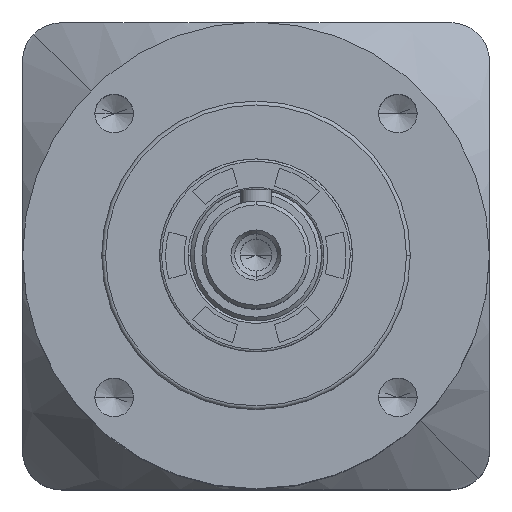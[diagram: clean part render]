
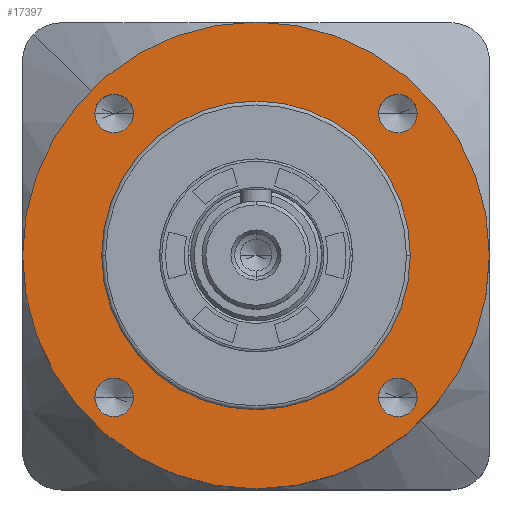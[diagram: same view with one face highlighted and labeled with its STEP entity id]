
A CAD part, top view. The second image highlights one B-rep face of the part: STEP entity #17397.
In plain terms, the highlighted planar face has unit normal (0, 0, 1).
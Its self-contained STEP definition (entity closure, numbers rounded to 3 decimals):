
#3 = DIRECTION ( 'NONE',  ( 1., 0., 0. ) ) ;
#395 = AXIS2_PLACEMENT_3D ( 'NONE', #2819, #5411, #10398 ) ;
#709 = EDGE_LOOP ( 'NONE', ( #9619, #21273 ) ) ;
#735 = DIRECTION ( 'NONE',  ( 1., 0., 0. ) ) ;
#2001 = EDGE_CURVE ( 'NONE', #31542, #20748, #12358, .T. ) ;
#2156 = AXIS2_PLACEMENT_3D ( 'NONE', #14854, #17230, #3 ) ;
#2819 = CARTESIAN_POINT ( 'NONE',  ( 0., 0., 17.9 ) ) ;
#3104 = EDGE_LOOP ( 'NONE', ( #3835, #17673 ) ) ;
#3468 = VERTEX_POINT ( 'NONE', #23179 ) ;
#3591 = DIRECTION ( 'NONE',  ( 1., 0., 0. ) ) ;
#3732 = EDGE_CURVE ( 'NONE', #3468, #10171, #12574, .T. ) ;
#3835 = ORIENTED_EDGE ( 'NONE', *, *, #20946, .F. ) ;
#4073 = CARTESIAN_POINT ( 'NONE',  ( -20.885, 18.385, 17.9 ) ) ;
#4578 = CARTESIAN_POINT ( 'NONE',  ( 0., 0., 17.9 ) ) ;
#4780 = ORIENTED_EDGE ( 'NONE', *, *, #3732, .F. ) ;
#5200 = CARTESIAN_POINT ( 'NONE',  ( 30.25, 0., 17.9 ) ) ;
#5411 = DIRECTION ( 'NONE',  ( 0., 0., 1. ) ) ;
#5428 = CIRCLE ( 'NONE', #15590, 2.5 ) ;
#6446 = AXIS2_PLACEMENT_3D ( 'NONE', #22733, #25248, #15385 ) ;
#7029 = EDGE_LOOP ( 'NONE', ( #22985, #23994 ) ) ;
#7150 = CIRCLE ( 'NONE', #11786, 2.5 ) ;
#7212 = DIRECTION ( 'NONE',  ( 0., 0., 1. ) ) ;
#7366 = CIRCLE ( 'NONE', #13137, 20. ) ;
#7386 = CARTESIAN_POINT ( 'NONE',  ( 18.385, -18.385, 17.9 ) ) ;
#7790 = VERTEX_POINT ( 'NONE', #9582 ) ;
#7805 = VERTEX_POINT ( 'NONE', #21809 ) ;
#7867 = EDGE_CURVE ( 'NONE', #13983, #19068, #28806, .T. ) ;
#8151 = AXIS2_PLACEMENT_3D ( 'NONE', #4578, #7212, #21815 ) ;
#8171 = CIRCLE ( 'NONE', #8151, 30.25 ) ;
#8585 = DIRECTION ( 'NONE',  ( 0., 0., 1. ) ) ;
#8615 = CIRCLE ( 'NONE', #6446, 2.5 ) ;
#9547 = CARTESIAN_POINT ( 'NONE',  ( 18.385, 18.385, 17.9 ) ) ;
#9582 = CARTESIAN_POINT ( 'NONE',  ( -30.25, 0., 17.9 ) ) ;
#9619 = ORIENTED_EDGE ( 'NONE', *, *, #17334, .F. ) ;
#9655 = DIRECTION ( 'NONE',  ( 0., 0., 1. ) ) ;
#9759 = DIRECTION ( 'NONE',  ( 1., 0., 0. ) ) ;
#10171 = VERTEX_POINT ( 'NONE', #11906 ) ;
#10241 = AXIS2_PLACEMENT_3D ( 'NONE', #30124, #15262, #10379 ) ;
#10379 = DIRECTION ( 'NONE',  ( 1., 0., 0. ) ) ;
#10398 = DIRECTION ( 'NONE',  ( 1., 0., 0. ) ) ;
#10999 = CIRCLE ( 'NONE', #19649, 2.5 ) ;
#11485 = CIRCLE ( 'NONE', #25702, 2.5 ) ;
#11786 = AXIS2_PLACEMENT_3D ( 'NONE', #13088, #30443, #735 ) ;
#11790 = AXIS2_PLACEMENT_3D ( 'NONE', #14644, #9655, #31892 ) ;
#11906 = CARTESIAN_POINT ( 'NONE',  ( 15.885, 18.385, 17.9 ) ) ;
#12033 = EDGE_CURVE ( 'NONE', #10171, #3468, #7150, .T. ) ;
#12223 = VERTEX_POINT ( 'NONE', #4073 ) ;
#12358 = CIRCLE ( 'NONE', #27420, 20. ) ;
#12574 = CIRCLE ( 'NONE', #17237, 2.5 ) ;
#12696 = CARTESIAN_POINT ( 'NONE',  ( -20., 0., 17.9 ) ) ;
#12988 = EDGE_CURVE ( 'NONE', #12223, #23525, #19150, .T. ) ;
#13088 = CARTESIAN_POINT ( 'NONE',  ( 18.385, 18.385, 17.9 ) ) ;
#13137 = AXIS2_PLACEMENT_3D ( 'NONE', #18440, #23633, #21357 ) ;
#13983 = VERTEX_POINT ( 'NONE', #19207 ) ;
#14281 = DIRECTION ( 'NONE',  ( 1., 0., 0. ) ) ;
#14510 = EDGE_CURVE ( 'NONE', #7805, #23494, #10999, .T. ) ;
#14644 = CARTESIAN_POINT ( 'NONE',  ( -18.385, 18.385, 17.9 ) ) ;
#14854 = CARTESIAN_POINT ( 'NONE',  ( 18.385, -18.385, 17.9 ) ) ;
#15262 = DIRECTION ( 'NONE',  ( 0., 0., 1. ) ) ;
#15385 = DIRECTION ( 'NONE',  ( 1., 0., 0. ) ) ;
#15590 = AXIS2_PLACEMENT_3D ( 'NONE', #19995, #22487, #22173 ) ;
#16765 = ORIENTED_EDGE ( 'NONE', *, *, #20458, .F. ) ;
#17110 = FACE_OUTER_BOUND ( 'NONE', #7029, .T. ) ;
#17228 = EDGE_LOOP ( 'NONE', ( #4780, #24848 ) ) ;
#17230 = DIRECTION ( 'NONE',  ( 0., 0., 1. ) ) ;
#17237 = AXIS2_PLACEMENT_3D ( 'NONE', #9547, #21886, #9759 ) ;
#17334 = EDGE_CURVE ( 'NONE', #23525, #12223, #8615, .T. ) ;
#17397 = ADVANCED_FACE ( 'NONE', ( #27998, #19796, #17894, #28783, #31477, #17110 ), #17655, .T. ) ;
#17655 = PLANE ( 'NONE',  #395 ) ;
#17673 = ORIENTED_EDGE ( 'NONE', *, *, #14510, .F. ) ;
#17894 = FACE_BOUND ( 'NONE', #709, .T. ) ;
#18440 = CARTESIAN_POINT ( 'NONE',  ( 0., 0., 17.9 ) ) ;
#19068 = VERTEX_POINT ( 'NONE', #25289 ) ;
#19150 = CIRCLE ( 'NONE', #11790, 2.5 ) ;
#19207 = CARTESIAN_POINT ( 'NONE',  ( 20.885, -18.385, 17.9 ) ) ;
#19649 = AXIS2_PLACEMENT_3D ( 'NONE', #20805, #8585, #3591 ) ;
#19796 = FACE_BOUND ( 'NONE', #17228, .T. ) ;
#19831 = EDGE_CURVE ( 'NONE', #7790, #31031, #8171, .T. ) ;
#19995 = CARTESIAN_POINT ( 'NONE',  ( -18.385, -18.385, 17.9 ) ) ;
#20027 = DIRECTION ( 'NONE',  ( 0., 0., 1. ) ) ;
#20131 = DIRECTION ( 'NONE',  ( 1., 0., 0. ) ) ;
#20458 = EDGE_CURVE ( 'NONE', #20748, #31542, #7366, .T. ) ;
#20748 = VERTEX_POINT ( 'NONE', #12696 ) ;
#20805 = CARTESIAN_POINT ( 'NONE',  ( -18.385, -18.385, 17.9 ) ) ;
#20861 = CIRCLE ( 'NONE', #10241, 30.25 ) ;
#20946 = EDGE_CURVE ( 'NONE', #23494, #7805, #5428, .T. ) ;
#21114 = CARTESIAN_POINT ( 'NONE',  ( 20., 0., 17.9 ) ) ;
#21273 = ORIENTED_EDGE ( 'NONE', *, *, #12988, .F. ) ;
#21357 = DIRECTION ( 'NONE',  ( 1., 0., 0. ) ) ;
#21809 = CARTESIAN_POINT ( 'NONE',  ( -20.885, -18.385, 17.9 ) ) ;
#21815 = DIRECTION ( 'NONE',  ( 1., 0., 0. ) ) ;
#21886 = DIRECTION ( 'NONE',  ( 0., 0., 1. ) ) ;
#22173 = DIRECTION ( 'NONE',  ( 1., 0., 0. ) ) ;
#22182 = EDGE_CURVE ( 'NONE', #31031, #7790, #20861, .T. ) ;
#22487 = DIRECTION ( 'NONE',  ( 0., 0., 1. ) ) ;
#22733 = CARTESIAN_POINT ( 'NONE',  ( -18.385, 18.385, 17.9 ) ) ;
#22985 = ORIENTED_EDGE ( 'NONE', *, *, #22182, .T. ) ;
#23179 = CARTESIAN_POINT ( 'NONE',  ( 20.885, 18.385, 17.9 ) ) ;
#23494 = VERTEX_POINT ( 'NONE', #23673 ) ;
#23525 = VERTEX_POINT ( 'NONE', #23779 ) ;
#23633 = DIRECTION ( 'NONE',  ( 0., 0., 1. ) ) ;
#23673 = CARTESIAN_POINT ( 'NONE',  ( -15.885, -18.385, 17.9 ) ) ;
#23779 = CARTESIAN_POINT ( 'NONE',  ( -15.885, 18.385, 17.9 ) ) ;
#23810 = DIRECTION ( 'NONE',  ( 0., 0., 1. ) ) ;
#23994 = ORIENTED_EDGE ( 'NONE', *, *, #19831, .T. ) ;
#24002 = CARTESIAN_POINT ( 'NONE',  ( 0., 0., 17.9 ) ) ;
#24848 = ORIENTED_EDGE ( 'NONE', *, *, #12033, .F. ) ;
#24930 = EDGE_LOOP ( 'NONE', ( #16765, #30105 ) ) ;
#25248 = DIRECTION ( 'NONE',  ( 0., 0., 1. ) ) ;
#25289 = CARTESIAN_POINT ( 'NONE',  ( 15.885, -18.385, 17.9 ) ) ;
#25562 = ORIENTED_EDGE ( 'NONE', *, *, #26093, .F. ) ;
#25702 = AXIS2_PLACEMENT_3D ( 'NONE', #7386, #20027, #20131 ) ;
#26093 = EDGE_CURVE ( 'NONE', #19068, #13983, #11485, .T. ) ;
#26703 = EDGE_LOOP ( 'NONE', ( #28771, #25562 ) ) ;
#27420 = AXIS2_PLACEMENT_3D ( 'NONE', #24002, #23810, #14281 ) ;
#27998 = FACE_BOUND ( 'NONE', #26703, .T. ) ;
#28771 = ORIENTED_EDGE ( 'NONE', *, *, #7867, .F. ) ;
#28783 = FACE_BOUND ( 'NONE', #3104, .T. ) ;
#28806 = CIRCLE ( 'NONE', #2156, 2.5 ) ;
#30105 = ORIENTED_EDGE ( 'NONE', *, *, #2001, .F. ) ;
#30124 = CARTESIAN_POINT ( 'NONE',  ( 0., 0., 17.9 ) ) ;
#30443 = DIRECTION ( 'NONE',  ( 0., 0., 1. ) ) ;
#31031 = VERTEX_POINT ( 'NONE', #5200 ) ;
#31477 = FACE_BOUND ( 'NONE', #24930, .T. ) ;
#31542 = VERTEX_POINT ( 'NONE', #21114 ) ;
#31892 = DIRECTION ( 'NONE',  ( 1., 0., 0. ) ) ;
